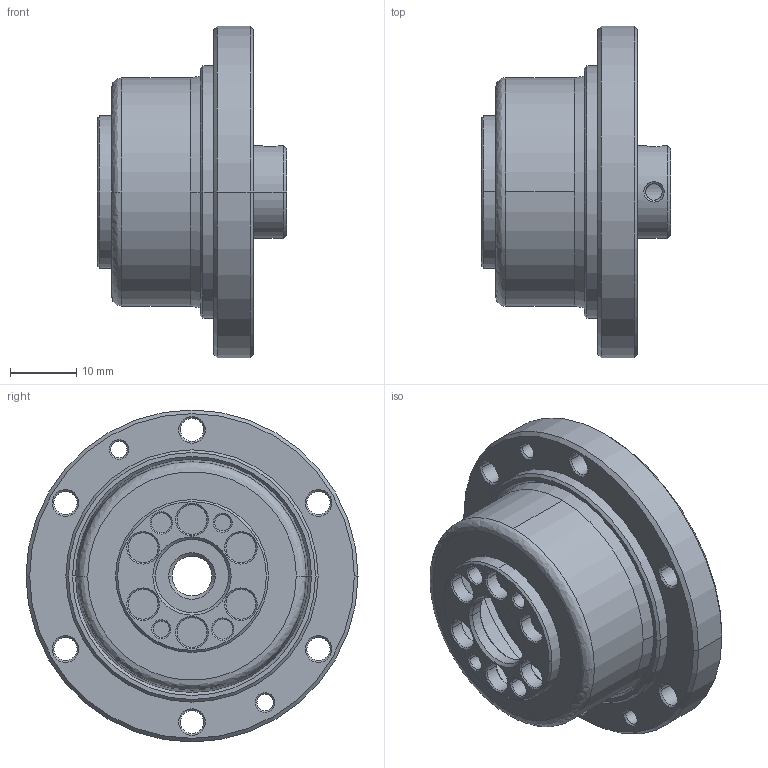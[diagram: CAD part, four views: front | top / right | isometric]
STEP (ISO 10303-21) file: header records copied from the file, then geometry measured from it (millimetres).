
FILE_DESCRIPTION(('STEP AP214'),'1');
FILE_NAME('cctmp_D701C98B-8E34-42C1-B862-995D7E29DAF2_2025_03_06_11_14_28_0104_126444..stp','2025-03-06T10:14:28',('HIWIN GmbH'),('CADClick - www.CADClick.com'),'Spatial InterOp 3D',' ','unknown authorization');
FILE_SCHEMA(('AUTOMOTIVE_DESIGN'));
Length unit declared in the file: millimetre
Products named in the file (2): DSC-14-XX-CO_FILE; 2025_03_06_11_14_28_0104
Assembly tree (1 placements, depth 2):
  DSC-14-XX-CO_FILE
    2025_03_06_11_14_28_0104
Bounding box: 28.5 x 50 x 50 mm (x, y, z)
Volume: 16815.6 mm3; surface area: 11042.7 mm2
Topology: 1 solids, 1 shells, 217 faces, 529 edges, 326 vertices
Faces by surface type: cone 102, cylinder 82, plane 23, bspline 10
Entity records: 10151 total; most frequent: CARTESIAN_POINT 3030, DIRECTION 1217, ORIENTED_EDGE 1058, EDGE_CURVE 529, AXIS2_PLACEMENT_3D 509, VERTEX_POINT 326, CIRCLE 300, EDGE_LOOP 271
